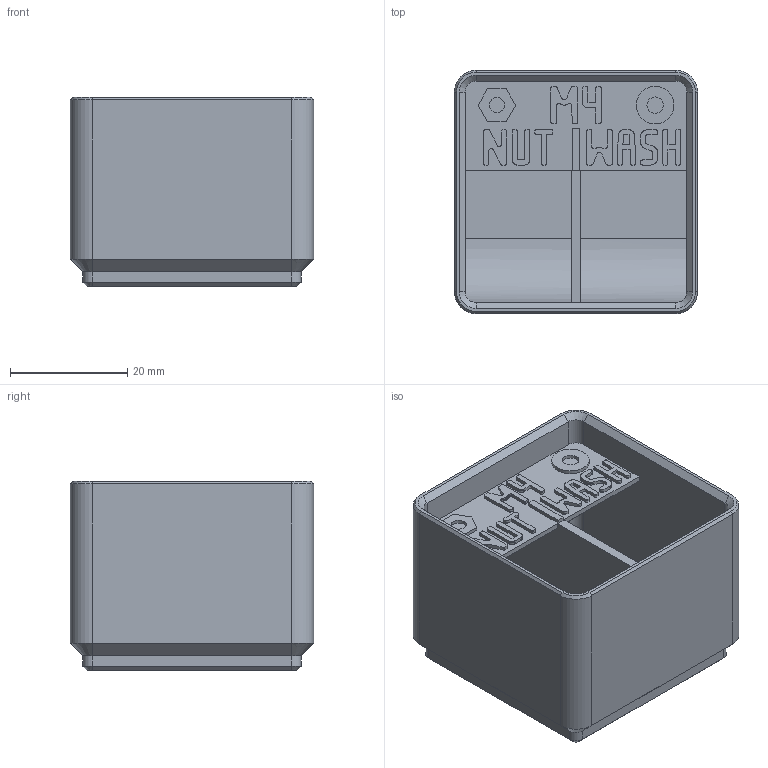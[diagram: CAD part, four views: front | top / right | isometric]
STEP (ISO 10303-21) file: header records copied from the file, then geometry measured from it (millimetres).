
FILE_DESCRIPTION(('Open CASCADE Model'),'2;1');
FILE_NAME('Open CASCADE Shape Model','2026-11-03T16:31:56',('Author'),( 'Open CASCADE'),'Open CASCADE STEP processor 8.0','build123d', 'Unknown');
FILE_SCHEMA(('AUTOMOTIVE_DESIGN { 1 0 10303 214 1 1 1 1 }'));
Products named in the file (1): COMPOUND
Bounding box: 41.5 x 41.5 x 32.4 mm (x, y, z)
Volume: 23072.8 mm3; surface area: 13802.9 mm2
Topology: 1 solids, 1 shells, 958 faces, 2780 edges, 1840 vertices
Faces by surface type: plane 923, cylinder 19, cone 16
Full cylindrical faces by diameter (mm): 2.6 x1, 2.8 x1, 6.4 x1
Entity records: 65503 total; most frequent: CARTESIAN_POINT 13363, DIRECTION 8431, LINE 6402, VECTOR 6402, ORIENTED_EDGE 5560, PCURVE 5560, DEFINITIONAL_REPRESENTATION 5560, EDGE_CURVE 2780
